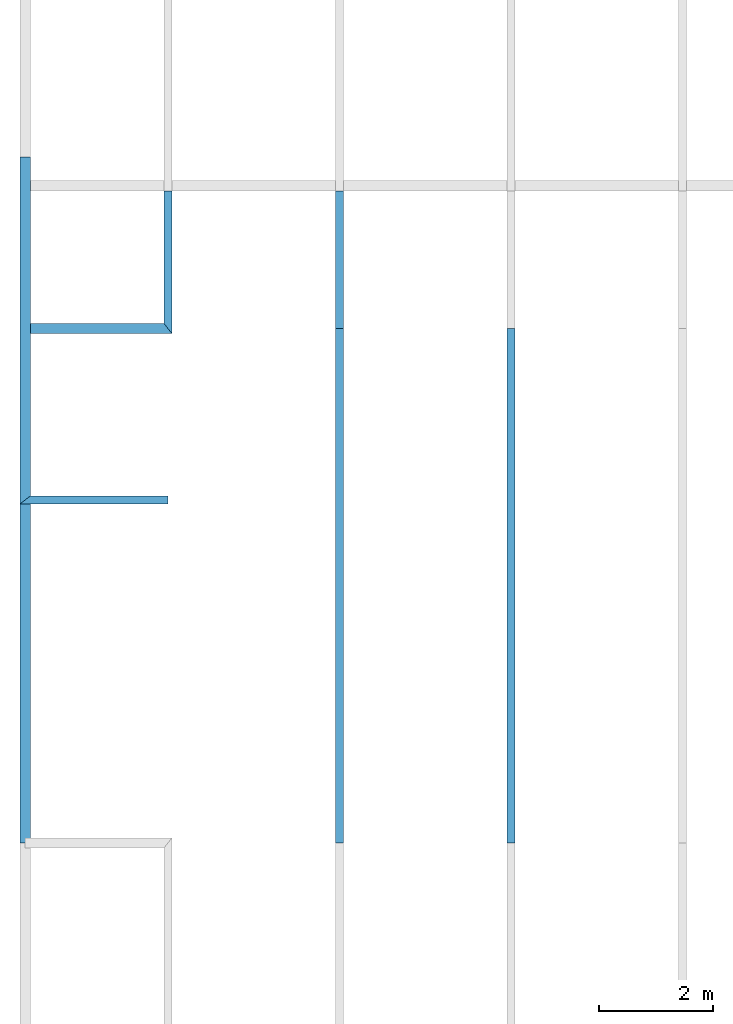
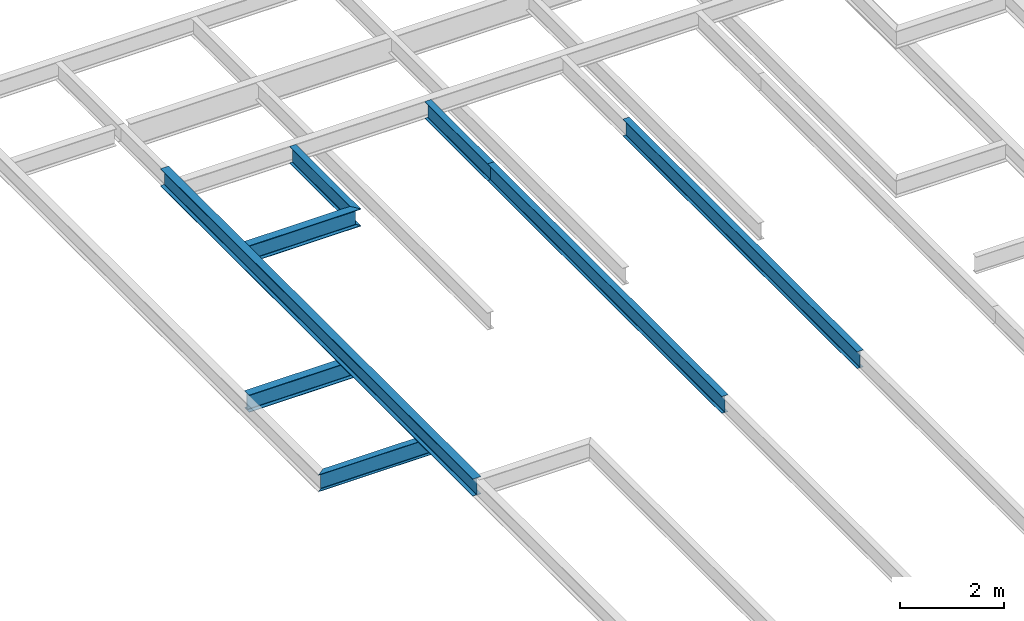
# One storey, part 4 of 7: 8 beams.
"""IFC2X3 building model written with IfcOpenShell, lengths in millimetres."""

from ifc_helpers import new_model, si_unit, origin, place, context, project, spatial, faceted_brep, material, element, save


model = new_model("IFC2X3")

# Units and contexts
context_of_model = context(None, 3, precision=1e-05, world=origin())
ifc_project = project(units=[si_unit("LENGTHUNIT", "METRE", prefix="MILLI")], contexts=[context_of_model])

# Building, storey
building = spatial("IfcBuilding", under=ifc_project, Name="Building", CompositionType="ELEMENT")
storey = spatial("IfcBuildingStorey", under=building, Name="ROF-FRM", CompositionType="ELEMENT")

# Beams
ifc_material_1 = material(Name="A992")
beam_1_placement = place(None, origin())
element("IfcBeam", 1, at=beam_1_placement, inside=storey, material=ifc_material_1, Name="B1127", context=context_of_model, shape_type="Brep", body=[
    faceted_brep([(-70.0, 27089.0, 27766.0), (70.0, 26911.0, 27766.0), (-2410.0, 26911.0, 27766.0), (-2410.0, 27089.0, 27766.0), (70.0, 26911.0, 27778.8), (-2410.0, 26911.0, 27778.8), (11.0506, 26986.0, 27778.8), (-2410.0, 26986.0, 27778.8), (9.91726, 26987.4, 27778.9), (-2410.0, 26987.4, 27778.9), (8.79907, 26988.8, 27779.2), (-2410.0, 26988.8, 27779.2), (7.72656, 26990.2, 27779.7), (-2410.0, 26990.2, 27779.7), (6.73542, 26991.4, 27780.4), (-2410.0, 26991.5, 27780.4), (5.80777, 26992.6, 27781.3), (-2410.0, 26992.6, 27781.3), (5.00397, 26993.6, 27782.3), (-2410.0, 26993.7, 27782.3), (4.31854, 26994.5, 27783.5), (-2410.0, 26994.5, 27783.5), (3.75509, 26995.2, 27784.7), (-2410.0, 26995.2, 27784.8), (3.36802, 26995.7, 27786.1), (-2410.0, 26995.7, 27786.1), (3.12694, 26996.0, 27787.5), (-2410.0, 26996.0, 27787.5), (3.02809, 26996.2, 27789.0), (-2410.0, 26996.2, 27789.0), (3.02809, 26996.2, 28150.0), (-2410.0, 26996.2, 28150.0), (3.12694, 26996.0, 28151.5), (-2410.0, 26996.0, 28151.5), (3.36802, 26995.7, 28152.9), (-2410.0, 26995.7, 28152.9), (3.75509, 26995.2, 28154.3), (-2410.0, 26995.2, 28154.2), (4.31854, 26994.5, 28155.5), (-2410.0, 26994.5, 28155.5), (5.00397, 26993.6, 28156.7), (-2410.0, 26993.7, 28156.7), (5.80777, 26992.6, 28157.7), (-2410.0, 26992.6, 28157.7), (6.73542, 26991.4, 28158.6), (-2410.0, 26991.5, 28158.6), (7.72656, 26990.2, 28159.3), (-2410.0, 26990.2, 28159.3), (8.79907, 26988.8, 28159.8), (-2410.0, 26988.8, 28159.8), (9.91726, 26987.4, 28160.1), (-2410.0, 26987.4, 28160.1), (11.0506, 26986.0, 28160.2), (-2410.0, 26986.0, 28160.2), (70.0, 26911.0, 28160.2), (-2410.0, 26911.0, 28160.2), (70.0, 26911.0, 28173.0), (-2410.0, 26911.0, 28173.0), (-70.0, 27089.0, 28173.0), (-2410.0, 27089.0, 28173.0), (-70.0, 27089.0, 28160.2), (-2410.0, 27089.0, 28160.2), (-11.0506, 27014.0, 28160.2), (-2410.0, 27014.0, 28160.2), (-9.91726, 27012.6, 28160.1), (-2410.0, 27012.6, 28160.1), (-8.79907, 27011.2, 28159.8), (-2410.0, 27011.2, 28159.8), (-7.72656, 27009.8, 28159.3), (-2410.0, 27009.8, 28159.3), (-6.73542, 27008.6, 28158.6), (-2410.0, 27008.5, 28158.6), (-5.80777, 27007.4, 28157.7), (-2410.0, 27007.4, 28157.7), (-5.00397, 27006.4, 28156.7), (-2410.0, 27006.3, 28156.7), (-4.31854, 27005.5, 28155.5), (-2410.0, 27005.5, 28155.5), (-3.75509, 27004.8, 28154.3), (-2410.0, 27004.8, 28154.2), (-3.36802, 27004.3, 28152.9), (-2410.0, 27004.3, 28152.9), (-3.12694, 27004.0, 28151.5), (-2410.0, 27004.0, 28151.5), (-3.02809, 27003.8, 28150.0), (-2410.0, 27003.8, 28150.0), (-3.02809, 27003.8, 27789.0), (-2410.0, 27003.8, 27789.0), (-3.12694, 27004.0, 27787.5), (-2410.0, 27004.0, 27787.5), (-3.36802, 27004.3, 27786.1), (-2410.0, 27004.3, 27786.1), (-3.75509, 27004.8, 27784.7), (-2410.0, 27004.8, 27784.8), (-4.31854, 27005.5, 27783.5), (-2410.0, 27005.5, 27783.5), (-5.00397, 27006.4, 27782.3), (-2410.0, 27006.3, 27782.3), (-5.80777, 27007.4, 27781.3), (-2410.0, 27007.4, 27781.3), (-6.73542, 27008.6, 27780.4), (-2410.0, 27008.5, 27780.4), (-7.72656, 27009.8, 27779.7), (-2410.0, 27009.8, 27779.7), (-8.79907, 27011.2, 27779.2), (-2410.0, 27011.2, 27779.2), (-9.91726, 27012.6, 27778.9), (-2410.0, 27012.6, 27778.9), (-11.0506, 27014.0, 27778.8), (-2410.0, 27014.0, 27778.8), (-70.0, 27089.0, 27778.8), (-2410.0, 27089.0, 27778.8)], [[[0, 1, 2, 3]], [[1, 4, 5, 2]], [[4, 6, 7, 5]], [[6, 8, 9, 7]], [[8, 10, 11, 9]], [[10, 12, 13, 11]], [[12, 14, 15, 13]], [[14, 16, 17, 15]], [[16, 18, 19, 17]], [[18, 20, 21, 19]], [[20, 22, 23, 21]], [[22, 24, 25, 23]], [[24, 26, 27, 25]], [[26, 28, 29, 27]], [[28, 30, 31, 29]], [[30, 32, 33, 31]], [[32, 34, 35, 33]], [[34, 36, 37, 35]], [[36, 38, 39, 37]], [[38, 40, 41, 39]], [[40, 42, 43, 41]], [[42, 44, 45, 43]], [[44, 46, 47, 45]], [[46, 48, 49, 47]], [[48, 50, 51, 49]], [[50, 52, 53, 51]], [[52, 54, 55, 53]], [[54, 56, 57, 55]], [[56, 58, 59, 57]], [[58, 60, 61, 59]], [[60, 62, 63, 61]], [[62, 64, 65, 63]], [[64, 66, 67, 65]], [[66, 68, 69, 67]], [[68, 70, 71, 69]], [[70, 72, 73, 71]], [[72, 74, 75, 73]], [[74, 76, 77, 75]], [[76, 78, 79, 77]], [[78, 80, 81, 79]], [[80, 82, 83, 81]], [[82, 84, 85, 83]], [[84, 86, 87, 85]], [[86, 88, 89, 87]], [[88, 90, 91, 89]], [[90, 92, 93, 91]], [[92, 94, 95, 93]], [[94, 96, 97, 95]], [[96, 98, 99, 97]], [[98, 100, 101, 99]], [[100, 102, 103, 101]], [[102, 104, 105, 103]], [[104, 106, 107, 105]], [[106, 108, 109, 107]], [[108, 110, 111, 109]], [[110, 0, 3, 111]], [[0, 110, 108, 106, 104, 102, 100, 98, 96, 94, 92, 90, 88, 86, 84, 82, 80, 78, 76, 74, 72, 70, 68, 66, 64, 62, 60, 58, 56, 54, 52, 50, 48, 46, 44, 42, 40, 38, 36, 34, 32, 30, 28, 26, 24, 22, 20, 18, 16, 14, 12, 10, 8, 6, 4, 1]], [[3, 2, 5, 7, 9, 11, 13, 15, 17, 19, 21, 23, 25, 27, 29, 31, 33, 35, 37, 39, 41, 43, 45, 47, 49, 51, 53, 55, 57, 59, 61, 63, 65, 67, 69, 71, 73, 75, 77, 79, 81, 83, 85, 87, 89, 91, 93, 95, 97, 99, 101, 103, 105, 107, 109, 111]]]),
])
ifc_material_2 = material(Name="A992")
beam_2_placement = place(None, origin())
element("IfcBeam", 2, at=beam_2_placement, inside=storey, material=ifc_material_2, Name="B1132", context=context_of_model, shape_type="Brep", body=[
    faceted_brep([(-70.0, 27089.0, 31266.0), (70.0, 26911.0, 31266.0), (-2410.0, 26911.0, 31266.0), (-2410.0, 27089.0, 31266.0), (70.0, 26911.0, 31278.8), (-2410.0, 26911.0, 31278.8), (11.0506, 26986.0, 31278.8), (-2410.0, 26986.0, 31278.8), (9.91726, 26987.4, 31278.9), (-2410.0, 26987.4, 31278.9), (8.79907, 26988.8, 31279.2), (-2410.0, 26988.8, 31279.2), (7.72656, 26990.2, 31279.7), (-2410.0, 26990.2, 31279.7), (6.73542, 26991.4, 31280.4), (-2410.0, 26991.5, 31280.4), (5.80777, 26992.6, 31281.3), (-2410.0, 26992.6, 31281.3), (5.00397, 26993.6, 31282.3), (-2410.0, 26993.7, 31282.3), (4.31854, 26994.5, 31283.5), (-2410.0, 26994.5, 31283.5), (3.75509, 26995.2, 31284.7), (-2410.0, 26995.2, 31284.8), (3.36802, 26995.7, 31286.1), (-2410.0, 26995.7, 31286.1), (3.12694, 26996.0, 31287.5), (-2410.0, 26996.0, 31287.5), (3.02809, 26996.2, 31289.0), (-2410.0, 26996.2, 31289.0), (3.02809, 26996.2, 31650.0), (-2410.0, 26996.2, 31650.0), (3.12694, 26996.0, 31651.5), (-2410.0, 26996.0, 31651.5), (3.36802, 26995.7, 31652.9), (-2410.0, 26995.7, 31652.9), (3.75509, 26995.2, 31654.3), (-2410.0, 26995.2, 31654.2), (4.31854, 26994.5, 31655.5), (-2410.0, 26994.5, 31655.5), (5.00397, 26993.6, 31656.7), (-2410.0, 26993.7, 31656.7), (5.80777, 26992.6, 31657.7), (-2410.0, 26992.6, 31657.7), (6.73542, 26991.4, 31658.6), (-2410.0, 26991.5, 31658.6), (7.72656, 26990.2, 31659.3), (-2410.0, 26990.2, 31659.3), (8.79907, 26988.8, 31659.8), (-2410.0, 26988.8, 31659.8), (9.91726, 26987.4, 31660.1), (-2410.0, 26987.4, 31660.1), (11.0506, 26986.0, 31660.2), (-2410.0, 26986.0, 31660.2), (70.0, 26911.0, 31660.2), (-2410.0, 26911.0, 31660.2), (70.0, 26911.0, 31673.0), (-2410.0, 26911.0, 31673.0), (-70.0, 27089.0, 31673.0), (-2410.0, 27089.0, 31673.0), (-70.0, 27089.0, 31660.2), (-2410.0, 27089.0, 31660.2), (-11.0506, 27014.0, 31660.2), (-2410.0, 27014.0, 31660.2), (-9.91726, 27012.6, 31660.1), (-2410.0, 27012.6, 31660.1), (-8.79907, 27011.2, 31659.8), (-2410.0, 27011.2, 31659.8), (-7.72656, 27009.8, 31659.3), (-2410.0, 27009.8, 31659.3), (-6.73542, 27008.6, 31658.6), (-2410.0, 27008.5, 31658.6), (-5.80777, 27007.4, 31657.7), (-2410.0, 27007.4, 31657.7), (-5.00397, 27006.4, 31656.7), (-2410.0, 27006.3, 31656.7), (-4.31854, 27005.5, 31655.5), (-2410.0, 27005.5, 31655.5), (-3.75509, 27004.8, 31654.3), (-2410.0, 27004.8, 31654.2), (-3.36802, 27004.3, 31652.9), (-2410.0, 27004.3, 31652.9), (-3.12694, 27004.0, 31651.5), (-2410.0, 27004.0, 31651.5), (-3.02809, 27003.8, 31650.0), (-2410.0, 27003.8, 31650.0), (-3.02809, 27003.8, 31289.0), (-2410.0, 27003.8, 31289.0), (-3.12694, 27004.0, 31287.5), (-2410.0, 27004.0, 31287.5), (-3.36802, 27004.3, 31286.1), (-2410.0, 27004.3, 31286.1), (-3.75509, 27004.8, 31284.7), (-2410.0, 27004.8, 31284.8), (-4.31854, 27005.5, 31283.5), (-2410.0, 27005.5, 31283.5), (-5.00397, 27006.4, 31282.3), (-2410.0, 27006.3, 31282.3), (-5.80777, 27007.4, 31281.3), (-2410.0, 27007.4, 31281.3), (-6.73542, 27008.6, 31280.4), (-2410.0, 27008.5, 31280.4), (-7.72656, 27009.8, 31279.7), (-2410.0, 27009.8, 31279.7), (-8.79907, 27011.2, 31279.2), (-2410.0, 27011.2, 31279.2), (-9.91726, 27012.6, 31278.9), (-2410.0, 27012.6, 31278.9), (-11.0506, 27014.0, 31278.8), (-2410.0, 27014.0, 31278.8), (-70.0, 27089.0, 31278.8), (-2410.0, 27089.0, 31278.8)], [[[0, 1, 2, 3]], [[1, 4, 5, 2]], [[4, 6, 7, 5]], [[6, 8, 9, 7]], [[8, 10, 11, 9]], [[10, 12, 13, 11]], [[12, 14, 15, 13]], [[14, 16, 17, 15]], [[16, 18, 19, 17]], [[18, 20, 21, 19]], [[20, 22, 23, 21]], [[22, 24, 25, 23]], [[24, 26, 27, 25]], [[26, 28, 29, 27]], [[28, 30, 31, 29]], [[30, 32, 33, 31]], [[32, 34, 35, 33]], [[34, 36, 37, 35]], [[36, 38, 39, 37]], [[38, 40, 41, 39]], [[40, 42, 43, 41]], [[42, 44, 45, 43]], [[44, 46, 47, 45]], [[46, 48, 49, 47]], [[48, 50, 51, 49]], [[50, 52, 53, 51]], [[52, 54, 55, 53]], [[54, 56, 57, 55]], [[56, 58, 59, 57]], [[58, 60, 61, 59]], [[60, 62, 63, 61]], [[62, 64, 65, 63]], [[64, 66, 67, 65]], [[66, 68, 69, 67]], [[68, 70, 71, 69]], [[70, 72, 73, 71]], [[72, 74, 75, 73]], [[74, 76, 77, 75]], [[76, 78, 79, 77]], [[78, 80, 81, 79]], [[80, 82, 83, 81]], [[82, 84, 85, 83]], [[84, 86, 87, 85]], [[86, 88, 89, 87]], [[88, 90, 91, 89]], [[90, 92, 93, 91]], [[92, 94, 95, 93]], [[94, 96, 97, 95]], [[96, 98, 99, 97]], [[98, 100, 101, 99]], [[100, 102, 103, 101]], [[102, 104, 105, 103]], [[104, 106, 107, 105]], [[106, 108, 109, 107]], [[108, 110, 111, 109]], [[110, 0, 3, 111]], [[0, 110, 108, 106, 104, 102, 100, 98, 96, 94, 92, 90, 88, 86, 84, 82, 80, 78, 76, 74, 72, 70, 68, 66, 64, 62, 60, 58, 56, 54, 52, 50, 48, 46, 44, 42, 40, 38, 36, 34, 32, 30, 28, 26, 24, 22, 20, 18, 16, 14, 12, 10, 8, 6, 4, 1]], [[3, 2, 5, 7, 9, 11, 13, 15, 17, 19, 21, 23, 25, 27, 29, 31, 33, 35, 37, 39, 41, 43, 45, 47, 49, 51, 53, 55, 57, 59, 61, 63, 65, 67, 69, 71, 73, 75, 77, 79, 81, 83, 85, 87, 89, 91, 93, 95, 97, 99, 101, 103, 105, 107, 109, 111]]]),
])
ifc_material_3 = material(Name="A992")
beam_3_placement = place(None, origin())
element("IfcBeam", 3, at=beam_3_placement, inside=storey, material=ifc_material_3, Name="B1142", context=context_of_model, shape_type="Brep", body=[
    faceted_brep([(-2410.0, 18000.0, 31260.0), (-2590.0, 18000.0, 31260.0), (-2590.0, 30000.0, 31260.0), (-2410.0, 30000.0, 31260.0), (-2590.0, 18000.0, 31276.0), (-2590.0, 30000.0, 31276.0), (-2515.05, 18000.0, 31276.0), (-2515.05, 30000.0, 31276.0), (-2512.41, 18000.0, 31276.3), (-2512.41, 30000.0, 31276.3), (-2509.95, 18000.0, 31277.4), (-2509.95, 30000.0, 31277.4), (-2507.84, 18000.0, 31279.0), (-2507.84, 30000.0, 31279.0), (-2506.22, 18000.0, 31281.1), (-2506.22, 30000.0, 31281.1), (-2505.2, 18000.0, 31283.6), (-2505.2, 30000.0, 31283.6), (-2504.85, 18000.0, 31286.2), (-2504.85, 30000.0, 31286.2), (-2504.85, 18000.0, 31646.8), (-2504.85, 30000.0, 31646.8), (-2505.2, 18000.0, 31649.4), (-2505.2, 30000.0, 31649.4), (-2506.22, 18000.0, 31651.9), (-2506.22, 30000.0, 31651.9), (-2507.84, 18000.0, 31654.0), (-2507.84, 30000.0, 31654.0), (-2509.95, 18000.0, 31655.6), (-2509.95, 30000.0, 31655.6), (-2512.41, 18000.0, 31656.7), (-2512.41, 30000.0, 31656.7), (-2515.05, 18000.0, 31657.0), (-2515.05, 30000.0, 31657.0), (-2590.0, 18000.0, 31657.0), (-2590.0, 30000.0, 31657.0), (-2590.0, 18000.0, 31673.0), (-2590.0, 30000.0, 31673.0), (-2410.0, 18000.0, 31673.0), (-2410.0, 30000.0, 31673.0), (-2410.0, 18000.0, 31657.0), (-2410.0, 30000.0, 31657.0), (-2484.95, 18000.0, 31657.0), (-2484.95, 30000.0, 31657.0), (-2487.59, 18000.0, 31656.7), (-2487.59, 30000.0, 31656.7), (-2490.05, 18000.0, 31655.6), (-2490.05, 30000.0, 31655.6), (-2492.16, 18000.0, 31654.0), (-2492.16, 30000.0, 31654.0), (-2493.78, 18000.0, 31651.9), (-2493.78, 30000.0, 31651.9), (-2494.8, 18000.0, 31649.4), (-2494.8, 30000.0, 31649.4), (-2495.15, 18000.0, 31646.8), (-2495.15, 30000.0, 31646.8), (-2495.15, 18000.0, 31286.2), (-2495.15, 30000.0, 31286.2), (-2494.8, 18000.0, 31283.6), (-2494.8, 30000.0, 31283.6), (-2493.78, 18000.0, 31281.1), (-2493.78, 30000.0, 31281.1), (-2492.16, 18000.0, 31279.0), (-2492.16, 30000.0, 31279.0), (-2490.05, 18000.0, 31277.4), (-2490.05, 30000.0, 31277.4), (-2487.59, 18000.0, 31276.3), (-2487.59, 30000.0, 31276.3), (-2484.95, 18000.0, 31276.0), (-2484.95, 30000.0, 31276.0), (-2410.0, 18000.0, 31276.0), (-2410.0, 30000.0, 31276.0)], [[[0, 1, 2, 3]], [[1, 4, 5, 2]], [[4, 6, 7, 5]], [[6, 8, 9, 7]], [[8, 10, 11, 9]], [[10, 12, 13, 11]], [[12, 14, 15, 13]], [[14, 16, 17, 15]], [[16, 18, 19, 17]], [[18, 20, 21, 19]], [[20, 22, 23, 21]], [[22, 24, 25, 23]], [[24, 26, 27, 25]], [[26, 28, 29, 27]], [[28, 30, 31, 29]], [[30, 32, 33, 31]], [[32, 34, 35, 33]], [[34, 36, 37, 35]], [[36, 38, 39, 37]], [[38, 40, 41, 39]], [[40, 42, 43, 41]], [[42, 44, 45, 43]], [[44, 46, 47, 45]], [[46, 48, 49, 47]], [[48, 50, 51, 49]], [[50, 52, 53, 51]], [[52, 54, 55, 53]], [[54, 56, 57, 55]], [[56, 58, 59, 57]], [[58, 60, 61, 59]], [[60, 62, 63, 61]], [[62, 64, 65, 63]], [[64, 66, 67, 65]], [[66, 68, 69, 67]], [[68, 70, 71, 69]], [[70, 0, 3, 71]], [[0, 70, 68, 66, 64, 62, 60, 58, 56, 54, 52, 50, 48, 46, 44, 42, 40, 38, 36, 34, 32, 30, 28, 26, 24, 22, 20, 18, 16, 14, 12, 10, 8, 6, 4, 1]], [[3, 2, 5, 7, 9, 11, 13, 15, 17, 19, 21, 23, 25, 27, 29, 31, 33, 35, 37, 39, 41, 43, 45, 47, 49, 51, 53, 55, 57, 59, 61, 63, 65, 67, 69, 71]]]),
])
ifc_material_4 = material(Name="A992")
beam_4_placement = place(None, origin())
element("IfcBeam", 4, at=beam_4_placement, inside=storey, material=ifc_material_4, Name="B1146", context=context_of_model, shape_type="Brep", body=[
    faceted_brep([(-2590.0, 23930.0, 27774.0), (-2410.0, 24070.0, 27774.0), (-2.98428e-13, 24070.0, 27774.0), (2.98428e-13, 23930.0, 27774.0), (-2410.0, 24070.0, 27782.8), (-2.98428e-13, 24070.0, 27782.8), (-2482.77, 24013.4, 27782.8), (-5.71276e-14, 24013.4, 27782.8), (-2484.8, 24011.8, 27782.9), (-5.0325e-14, 24011.8, 27782.9), (-2486.8, 24010.3, 27783.3), (-4.369e-14, 24010.2, 27783.3), (-2488.68, 24008.8, 27783.9), (-3.73858e-14, 24008.8, 27783.9), (-2490.42, 24007.5, 27784.7), (-3.15677e-14, 24007.4, 27784.7), (-2492.04, 24006.2, 27785.8), (-2.63789e-14, 24006.2, 27785.8), (-2493.32, 24005.2, 27786.9), (-2.19474e-14, 24005.1, 27787.0), (-2494.44, 24004.3, 27788.3), (-1.8382e-14, 24004.3, 27788.4), (-2495.2, 24003.7, 27789.8), (-1.57707e-14, 24003.7, 27789.8), (-2495.66, 24003.4, 27791.4), (-1.41778e-14, 24003.3, 27791.4), (-2495.89, 24003.2, 27793.0), (-1.36424e-14, 24003.2, 27793.0), (-2495.89, 24003.2, 28154.0), (-1.36424e-14, 24003.2, 28154.0), (-2495.66, 24003.4, 28155.6), (-1.41778e-14, 24003.3, 28155.6), (-2495.2, 24003.7, 28157.2), (-1.57707e-14, 24003.7, 28157.2), (-2494.44, 24004.3, 28158.7), (-1.8382e-14, 24004.3, 28158.6), (-2493.32, 24005.2, 28160.1), (-2.19474e-14, 24005.1, 28160.0), (-2492.04, 24006.2, 28161.2), (-2.63789e-14, 24006.2, 28161.2), (-2490.42, 24007.5, 28162.3), (-3.15677e-14, 24007.4, 28162.3), (-2488.68, 24008.8, 28163.1), (-3.73858e-14, 24008.8, 28163.1), (-2486.8, 24010.3, 28163.7), (-4.369e-14, 24010.2, 28163.7), (-2484.8, 24011.8, 28164.1), (-5.0325e-14, 24011.8, 28164.1), (-2482.77, 24013.4, 28164.2), (-5.71276e-14, 24013.4, 28164.2), (-2410.0, 24070.0, 28164.2), (-2.98428e-13, 24070.0, 28164.2), (-2410.0, 24070.0, 28173.0), (-2.98428e-13, 24070.0, 28173.0), (-2590.0, 23930.0, 28173.0), (2.98428e-13, 23930.0, 28173.0), (-2590.0, 23930.0, 28164.2), (2.98428e-13, 23930.0, 28164.2), (-2517.23, 23986.6, 28164.2), (5.71276e-14, 23986.6, 28164.2), (-2515.2, 23988.2, 28164.1), (5.0325e-14, 23988.2, 28164.1), (-2513.2, 23989.7, 28163.7), (4.369e-14, 23989.8, 28163.7), (-2511.32, 23991.2, 28163.1), (3.73858e-14, 23991.2, 28163.1), (-2509.58, 23992.5, 28162.3), (3.15677e-14, 23992.6, 28162.3), (-2507.96, 23993.8, 28161.2), (2.63789e-14, 23993.8, 28161.2), (-2506.68, 23994.8, 28160.1), (2.19474e-14, 23994.9, 28160.0), (-2505.56, 23995.7, 28158.7), (1.8382e-14, 23995.7, 28158.6), (-2504.8, 23996.3, 28157.2), (1.57707e-14, 23996.3, 28157.2), (-2504.34, 23996.6, 28155.6), (1.41778e-14, 23996.7, 28155.6), (-2504.11, 23996.8, 28154.0), (1.36424e-14, 23996.8, 28154.0), (-2504.11, 23996.8, 27793.0), (1.36424e-14, 23996.8, 27793.0), (-2504.34, 23996.6, 27791.4), (1.41778e-14, 23996.7, 27791.4), (-2504.8, 23996.3, 27789.8), (1.57707e-14, 23996.3, 27789.8), (-2505.56, 23995.7, 27788.3), (1.8382e-14, 23995.7, 27788.4), (-2506.68, 23994.8, 27786.9), (2.19474e-14, 23994.9, 27787.0), (-2507.96, 23993.8, 27785.8), (2.63789e-14, 23993.8, 27785.8), (-2509.58, 23992.5, 27784.7), (3.15677e-14, 23992.6, 27784.7), (-2511.32, 23991.2, 27783.9), (3.73858e-14, 23991.2, 27783.9), (-2513.2, 23989.7, 27783.3), (4.369e-14, 23989.8, 27783.3), (-2515.2, 23988.2, 27782.9), (5.0325e-14, 23988.2, 27782.9), (-2517.23, 23986.6, 27782.8), (5.71276e-14, 23986.6, 27782.8), (-2590.0, 23930.0, 27782.8), (2.98428e-13, 23930.0, 27782.8)], [[[0, 1, 2, 3]], [[1, 4, 5, 2]], [[4, 6, 7, 5]], [[6, 8, 9, 7]], [[8, 10, 11, 9]], [[10, 12, 13, 11]], [[12, 14, 15, 13]], [[14, 16, 17, 15]], [[16, 18, 19, 17]], [[18, 20, 21, 19]], [[20, 22, 23, 21]], [[22, 24, 25, 23]], [[24, 26, 27, 25]], [[26, 28, 29, 27]], [[28, 30, 31, 29]], [[30, 32, 33, 31]], [[32, 34, 35, 33]], [[34, 36, 37, 35]], [[36, 38, 39, 37]], [[38, 40, 41, 39]], [[40, 42, 43, 41]], [[42, 44, 45, 43]], [[44, 46, 47, 45]], [[46, 48, 49, 47]], [[48, 50, 51, 49]], [[50, 52, 53, 51]], [[52, 54, 55, 53]], [[54, 56, 57, 55]], [[56, 58, 59, 57]], [[58, 60, 61, 59]], [[60, 62, 63, 61]], [[62, 64, 65, 63]], [[64, 66, 67, 65]], [[66, 68, 69, 67]], [[68, 70, 71, 69]], [[70, 72, 73, 71]], [[72, 74, 75, 73]], [[74, 76, 77, 75]], [[76, 78, 79, 77]], [[78, 80, 81, 79]], [[80, 82, 83, 81]], [[82, 84, 85, 83]], [[84, 86, 87, 85]], [[86, 88, 89, 87]], [[88, 90, 91, 89]], [[90, 92, 93, 91]], [[92, 94, 95, 93]], [[94, 96, 97, 95]], [[96, 98, 99, 97]], [[98, 100, 101, 99]], [[100, 102, 103, 101]], [[102, 0, 3, 103]], [[0, 102, 100, 98, 96, 94, 92, 90, 88, 86, 84, 82, 80, 78, 76, 74, 72, 70, 68, 66, 64, 62, 60, 58, 56, 54, 52, 50, 48, 46, 44, 42, 40, 38, 36, 34, 32, 30, 28, 26, 24, 22, 20, 18, 16, 14, 12, 10, 8, 6, 4, 1]], [[3, 2, 5, 7, 9, 11, 13, 15, 17, 19, 21, 23, 25, 27, 29, 31, 33, 35, 37, 39, 41, 43, 45, 47, 49, 51, 53, 55, 57, 59, 61, 63, 65, 67, 69, 71, 73, 75, 77, 79, 81, 83, 85, 87, 89, 91, 93, 95, 97, 99, 101, 103]]]),
])
ifc_material_5 = material(Name="A992")
beam_5_placement = place(None, origin())
element("IfcBeam", 5, at=beam_5_placement, inside=storey, material=ifc_material_5, Name="B1157", context=context_of_model, shape_type="Brep", body=[
    faceted_brep([(5930.0, 27000.0, 31270.0), (6070.0, 27000.0, 31270.0), (6070.0, 18000.0, 31270.0), (5930.0, 18000.0, 31270.0), (6070.0, 27000.0, 31281.2), (6070.0, 18000.0, 31281.2), (6013.7, 27000.0, 31281.2), (6013.7, 18000.0, 31281.2), (6011.06, 27000.0, 31281.5), (6011.06, 18000.0, 31281.5), (6008.6, 27000.0, 31282.6), (6008.6, 18000.0, 31282.6), (6006.49, 27000.0, 31284.2), (6006.49, 18000.0, 31284.2), (6004.87, 27000.0, 31286.3), (6004.87, 18000.0, 31286.3), (6003.85, 27000.0, 31288.8), (6003.85, 18000.0, 31288.8), (6003.5, 27000.0, 31291.4), (6003.5, 18000.0, 31291.4), (6003.5, 27000.0, 31651.6), (6003.5, 18000.0, 31651.6), (6003.85, 27000.0, 31654.2), (6003.85, 18000.0, 31654.2), (6004.87, 27000.0, 31656.7), (6004.87, 18000.0, 31656.7), (6006.49, 27000.0, 31658.8), (6006.49, 18000.0, 31658.8), (6008.6, 27000.0, 31660.4), (6008.6, 18000.0, 31660.4), (6011.06, 27000.0, 31661.5), (6011.06, 18000.0, 31661.5), (6013.7, 27000.0, 31661.8), (6013.7, 18000.0, 31661.8), (6070.0, 27000.0, 31661.8), (6070.0, 18000.0, 31661.8), (6070.0, 27000.0, 31673.0), (6070.0, 18000.0, 31673.0), (5930.0, 27000.0, 31673.0), (5930.0, 18000.0, 31673.0), (5930.0, 27000.0, 31661.8), (5930.0, 18000.0, 31661.8), (5986.3, 27000.0, 31661.8), (5986.3, 18000.0, 31661.8), (5988.94, 27000.0, 31661.5), (5988.94, 18000.0, 31661.5), (5991.4, 27000.0, 31660.4), (5991.4, 18000.0, 31660.4), (5993.51, 27000.0, 31658.8), (5993.51, 18000.0, 31658.8), (5995.13, 27000.0, 31656.7), (5995.13, 18000.0, 31656.7), (5996.15, 27000.0, 31654.2), (5996.15, 18000.0, 31654.2), (5996.5, 27000.0, 31651.6), (5996.5, 18000.0, 31651.6), (5996.5, 27000.0, 31291.4), (5996.5, 18000.0, 31291.4), (5996.15, 27000.0, 31288.8), (5996.15, 18000.0, 31288.8), (5995.13, 27000.0, 31286.3), (5995.13, 18000.0, 31286.3), (5993.51, 27000.0, 31284.2), (5993.51, 18000.0, 31284.2), (5991.4, 27000.0, 31282.6), (5991.4, 18000.0, 31282.6), (5988.94, 27000.0, 31281.5), (5988.94, 18000.0, 31281.5), (5986.3, 27000.0, 31281.2), (5986.3, 18000.0, 31281.2), (5930.0, 27000.0, 31281.2), (5930.0, 18000.0, 31281.2)], [[[0, 1, 2, 3]], [[1, 4, 5, 2]], [[4, 6, 7, 5]], [[6, 8, 9, 7]], [[8, 10, 11, 9]], [[10, 12, 13, 11]], [[12, 14, 15, 13]], [[14, 16, 17, 15]], [[16, 18, 19, 17]], [[18, 20, 21, 19]], [[20, 22, 23, 21]], [[22, 24, 25, 23]], [[24, 26, 27, 25]], [[26, 28, 29, 27]], [[28, 30, 31, 29]], [[30, 32, 33, 31]], [[32, 34, 35, 33]], [[34, 36, 37, 35]], [[36, 38, 39, 37]], [[38, 40, 41, 39]], [[40, 42, 43, 41]], [[42, 44, 45, 43]], [[44, 46, 47, 45]], [[46, 48, 49, 47]], [[48, 50, 51, 49]], [[50, 52, 53, 51]], [[52, 54, 55, 53]], [[54, 56, 57, 55]], [[56, 58, 59, 57]], [[58, 60, 61, 59]], [[60, 62, 63, 61]], [[62, 64, 65, 63]], [[64, 66, 67, 65]], [[66, 68, 69, 67]], [[68, 70, 71, 69]], [[70, 0, 3, 71]], [[0, 70, 68, 66, 64, 62, 60, 58, 56, 54, 52, 50, 48, 46, 44, 42, 40, 38, 36, 34, 32, 30, 28, 26, 24, 22, 20, 18, 16, 14, 12, 10, 8, 6, 4, 1]], [[3, 2, 5, 7, 9, 11, 13, 15, 17, 19, 21, 23, 25, 27, 29, 31, 33, 35, 37, 39, 41, 43, 45, 47, 49, 51, 53, 55, 57, 59, 61, 63, 65, 67, 69, 71]]]),
])
ifc_material_6 = material(Name="A992")
beam_6_placement = place(None, origin())
element("IfcBeam", 6, at=beam_6_placement, inside=storey, material=ifc_material_6, Name="B1160", context=context_of_model, shape_type="Brep", body=[
    faceted_brep([(3070.0, 27000.0, 31270.0), (2930.0, 27000.0, 31270.0), (2930.0, 29410.0, 31270.0), (3070.0, 29410.0, 31270.0), (2930.0, 27000.0, 31281.2), (2930.0, 29410.0, 31281.2), (2986.3, 27000.0, 31281.2), (2986.3, 29410.0, 31281.2), (2988.94, 27000.0, 31281.5), (2988.94, 29410.0, 31281.5), (2991.4, 27000.0, 31282.6), (2991.4, 29410.0, 31282.6), (2993.51, 27000.0, 31284.2), (2993.51, 29410.0, 31284.2), (2995.13, 27000.0, 31286.3), (2995.13, 29410.0, 31286.3), (2996.15, 27000.0, 31288.8), (2996.15, 29410.0, 31288.8), (2996.5, 27000.0, 31291.4), (2996.5, 29410.0, 31291.4), (2996.5, 27000.0, 31651.6), (2996.5, 29410.0, 31651.6), (2996.15, 27000.0, 31654.2), (2996.15, 29410.0, 31654.2), (2995.13, 27000.0, 31656.7), (2995.13, 29410.0, 31656.7), (2993.51, 27000.0, 31658.8), (2993.51, 29410.0, 31658.8), (2991.4, 27000.0, 31660.4), (2991.4, 29410.0, 31660.4), (2988.94, 27000.0, 31661.5), (2988.94, 29410.0, 31661.5), (2986.3, 27000.0, 31661.8), (2986.3, 29410.0, 31661.8), (2930.0, 27000.0, 31661.8), (2930.0, 29410.0, 31661.8), (2930.0, 27000.0, 31673.0), (2930.0, 29410.0, 31673.0), (3070.0, 27000.0, 31673.0), (3070.0, 29410.0, 31673.0), (3070.0, 27000.0, 31661.8), (3070.0, 29410.0, 31661.8), (3013.7, 27000.0, 31661.8), (3013.7, 29410.0, 31661.8), (3011.06, 27000.0, 31661.5), (3011.06, 29410.0, 31661.5), (3008.6, 27000.0, 31660.4), (3008.6, 29410.0, 31660.4), (3006.49, 27000.0, 31658.8), (3006.49, 29410.0, 31658.8), (3004.87, 27000.0, 31656.7), (3004.87, 29410.0, 31656.7), (3003.85, 27000.0, 31654.2), (3003.85, 29410.0, 31654.2), (3003.5, 27000.0, 31651.6), (3003.5, 29410.0, 31651.6), (3003.5, 27000.0, 31291.4), (3003.5, 29410.0, 31291.4), (3003.85, 27000.0, 31288.8), (3003.85, 29410.0, 31288.8), (3004.87, 27000.0, 31286.3), (3004.87, 29410.0, 31286.3), (3006.49, 27000.0, 31284.2), (3006.49, 29410.0, 31284.2), (3008.6, 27000.0, 31282.6), (3008.6, 29410.0, 31282.6), (3011.06, 27000.0, 31281.5), (3011.06, 29410.0, 31281.5), (3013.7, 27000.0, 31281.2), (3013.7, 29410.0, 31281.2), (3070.0, 27000.0, 31281.2), (3070.0, 29410.0, 31281.2)], [[[0, 1, 2, 3]], [[1, 4, 5, 2]], [[4, 6, 7, 5]], [[6, 8, 9, 7]], [[8, 10, 11, 9]], [[10, 12, 13, 11]], [[12, 14, 15, 13]], [[14, 16, 17, 15]], [[16, 18, 19, 17]], [[18, 20, 21, 19]], [[20, 22, 23, 21]], [[22, 24, 25, 23]], [[24, 26, 27, 25]], [[26, 28, 29, 27]], [[28, 30, 31, 29]], [[30, 32, 33, 31]], [[32, 34, 35, 33]], [[34, 36, 37, 35]], [[36, 38, 39, 37]], [[38, 40, 41, 39]], [[40, 42, 43, 41]], [[42, 44, 45, 43]], [[44, 46, 47, 45]], [[46, 48, 49, 47]], [[48, 50, 51, 49]], [[50, 52, 53, 51]], [[52, 54, 55, 53]], [[54, 56, 57, 55]], [[56, 58, 59, 57]], [[58, 60, 61, 59]], [[60, 62, 63, 61]], [[62, 64, 65, 63]], [[64, 66, 67, 65]], [[66, 68, 69, 67]], [[68, 70, 71, 69]], [[70, 0, 3, 71]], [[0, 70, 68, 66, 64, 62, 60, 58, 56, 54, 52, 50, 48, 46, 44, 42, 40, 38, 36, 34, 32, 30, 28, 26, 24, 22, 20, 18, 16, 14, 12, 10, 8, 6, 4, 1]], [[3, 2, 5, 7, 9, 11, 13, 15, 17, 19, 21, 23, 25, 27, 29, 31, 33, 35, 37, 39, 41, 43, 45, 47, 49, 51, 53, 55, 57, 59, 61, 63, 65, 67, 69, 71]]]),
])
ifc_material_7 = material(Name="A992")
beam_7_placement = place(None, origin())
element("IfcBeam", 7, at=beam_7_placement, inside=storey, material=ifc_material_7, Name="B1180", context=context_of_model, shape_type="Brep", body=[
    faceted_brep([(70.0, 26911.0, 31274.0), (-70.0, 27089.0, 31274.0), (-70.0, 29410.0, 31274.0), (70.0, 29410.0, 31274.0), (-70.0, 27089.0, 31282.8), (-70.0, 29410.0, 31282.8), (-13.4, 27017.0, 31282.8), (-13.4, 29410.0, 31282.8), (-11.9666, 27015.2, 31282.9), (-11.9485, 29410.0, 31282.9), (-10.5454, 27013.4, 31283.2), (-10.5264, 29410.0, 31283.2), (-9.18121, 27011.7, 31283.7), (-9.1628, 29410.0, 31283.7), (-7.93548, 27010.1, 31284.4), (-7.88581, 29410.0, 31284.4), (-6.74703, 27008.6, 31285.2), (-6.72055, 29410.0, 31285.3), (-5.72901, 27007.3, 31286.3), (-5.69154, 29410.0, 31286.3), (-4.85916, 27006.2, 31287.4), (-4.81973, 29410.0, 31287.5), (-4.12728, 27005.2, 31288.7), (-4.12181, 29410.0, 31288.8), (-3.654, 27004.6, 31290.1), (-3.61356, 29410.0, 31290.1), (-3.35083, 27004.3, 31291.5), (-3.30435, 29410.0, 31291.5), (-3.2, 27004.1, 31293.0), (-3.2, 29410.0, 31293.0), (-3.2, 27004.1, 31654.0), (-3.2, 29410.0, 31654.0), (-3.35083, 27004.3, 31655.5), (-3.30435, 29410.0, 31655.5), (-3.654, 27004.6, 31656.9), (-3.61356, 29410.0, 31656.9), (-4.12728, 27005.2, 31658.3), (-4.12181, 29410.0, 31658.2), (-4.85916, 27006.2, 31659.6), (-4.81973, 29410.0, 31659.5), (-5.72901, 27007.3, 31660.7), (-5.69154, 29410.0, 31660.7), (-6.74703, 27008.6, 31661.8), (-6.72055, 29410.0, 31661.7), (-7.93548, 27010.1, 31662.6), (-7.88581, 29410.0, 31662.6), (-9.18121, 27011.7, 31663.3), (-9.1628, 29410.0, 31663.3), (-10.5454, 27013.4, 31663.8), (-10.5264, 29410.0, 31663.8), (-11.9666, 27015.2, 31664.1), (-11.9485, 29410.0, 31664.1), (-13.4, 27017.0, 31664.2), (-13.4, 29410.0, 31664.2), (-70.0, 27089.0, 31664.2), (-70.0, 29410.0, 31664.2), (-70.0, 27089.0, 31673.0), (-70.0, 29410.0, 31673.0), (70.0, 26911.0, 31673.0), (70.0, 29410.0, 31673.0), (70.0, 26911.0, 31664.2), (70.0, 29410.0, 31664.2), (13.4, 26983.0, 31664.2), (13.4, 29410.0, 31664.2), (11.9666, 26984.8, 31664.1), (11.9485, 29410.0, 31664.1), (10.5454, 26986.6, 31663.8), (10.5264, 29410.0, 31663.8), (9.18121, 26988.3, 31663.3), (9.1628, 29410.0, 31663.3), (7.93548, 26989.9, 31662.6), (7.88581, 29410.0, 31662.6), (6.74703, 26991.4, 31661.8), (6.72055, 29410.0, 31661.7), (5.72901, 26992.7, 31660.7), (5.69154, 29410.0, 31660.7), (4.85916, 26993.8, 31659.6), (4.81973, 29410.0, 31659.5), (4.12728, 26994.8, 31658.3), (4.12181, 29410.0, 31658.2), (3.654, 26995.4, 31656.9), (3.61356, 29410.0, 31656.9), (3.35083, 26995.7, 31655.5), (3.30435, 29410.0, 31655.5), (3.2, 26995.9, 31654.0), (3.2, 29410.0, 31654.0), (3.2, 26995.9, 31293.0), (3.2, 29410.0, 31293.0), (3.35083, 26995.7, 31291.5), (3.30435, 29410.0, 31291.5), (3.654, 26995.4, 31290.1), (3.61356, 29410.0, 31290.1), (4.12728, 26994.8, 31288.7), (4.12181, 29410.0, 31288.8), (4.85916, 26993.8, 31287.4), (4.81973, 29410.0, 31287.5), (5.72901, 26992.7, 31286.3), (5.69154, 29410.0, 31286.3), (6.74703, 26991.4, 31285.2), (6.72055, 29410.0, 31285.3), (7.93548, 26989.9, 31284.4), (7.88581, 29410.0, 31284.4), (9.18121, 26988.3, 31283.7), (9.1628, 29410.0, 31283.7), (10.5454, 26986.6, 31283.2), (10.5264, 29410.0, 31283.2), (11.9666, 26984.8, 31282.9), (11.9485, 29410.0, 31282.9), (13.4, 26983.0, 31282.8), (13.4, 29410.0, 31282.8), (70.0, 26911.0, 31282.8), (70.0, 29410.0, 31282.8)], [[[0, 1, 2, 3]], [[1, 4, 5, 2]], [[4, 6, 7, 5]], [[6, 8, 9, 7]], [[8, 10, 11, 9]], [[10, 12, 13, 11]], [[12, 14, 15, 13]], [[14, 16, 17, 15]], [[16, 18, 19, 17]], [[18, 20, 21, 19]], [[20, 22, 23, 21]], [[22, 24, 25, 23]], [[24, 26, 27, 25]], [[26, 28, 29, 27]], [[28, 30, 31, 29]], [[30, 32, 33, 31]], [[32, 34, 35, 33]], [[34, 36, 37, 35]], [[36, 38, 39, 37]], [[38, 40, 41, 39]], [[40, 42, 43, 41]], [[42, 44, 45, 43]], [[44, 46, 47, 45]], [[46, 48, 49, 47]], [[48, 50, 51, 49]], [[50, 52, 53, 51]], [[52, 54, 55, 53]], [[54, 56, 57, 55]], [[56, 58, 59, 57]], [[58, 60, 61, 59]], [[60, 62, 63, 61]], [[62, 64, 65, 63]], [[64, 66, 67, 65]], [[66, 68, 69, 67]], [[68, 70, 71, 69]], [[70, 72, 73, 71]], [[72, 74, 75, 73]], [[74, 76, 77, 75]], [[76, 78, 79, 77]], [[78, 80, 81, 79]], [[80, 82, 83, 81]], [[82, 84, 85, 83]], [[84, 86, 87, 85]], [[86, 88, 89, 87]], [[88, 90, 91, 89]], [[90, 92, 93, 91]], [[92, 94, 95, 93]], [[94, 96, 97, 95]], [[96, 98, 99, 97]], [[98, 100, 101, 99]], [[100, 102, 103, 101]], [[102, 104, 105, 103]], [[104, 106, 107, 105]], [[106, 108, 109, 107]], [[108, 110, 111, 109]], [[110, 0, 3, 111]], [[0, 110, 108, 106, 104, 102, 100, 98, 96, 94, 92, 90, 88, 86, 84, 82, 80, 78, 76, 74, 72, 70, 68, 66, 64, 62, 60, 58, 56, 54, 52, 50, 48, 46, 44, 42, 40, 38, 36, 34, 32, 30, 28, 26, 24, 22, 20, 18, 16, 14, 12, 10, 8, 6, 4, 1]], [[3, 2, 5, 7, 9, 11, 13, 15, 17, 19, 21, 23, 25, 27, 29, 31, 33, 35, 37, 39, 41, 43, 45, 47, 49, 51, 53, 55, 57, 59, 61, 63, 65, 67, 69, 71, 73, 75, 77, 79, 81, 83, 85, 87, 89, 91, 93, 95, 97, 99, 101, 103, 105, 107, 109, 111]]]),
])
ifc_material_8 = material(Name="A992")
beam_8_placement = place(None, origin())
element("IfcBeam", 8, at=beam_8_placement, inside=storey, material=ifc_material_8, Name="B1186", context=context_of_model, shape_type="Brep", body=[
    faceted_brep([(2930.0, 27000.0, 31270.0), (3070.0, 27000.0, 31270.0), (3070.0, 18000.0, 31270.0), (2930.0, 18000.0, 31270.0), (3070.0, 27000.0, 31281.2), (3070.0, 18000.0, 31281.2), (3013.7, 27000.0, 31281.2), (3013.7, 18000.0, 31281.2), (3011.06, 27000.0, 31281.5), (3011.06, 18000.0, 31281.5), (3008.6, 27000.0, 31282.6), (3008.6, 18000.0, 31282.6), (3006.49, 27000.0, 31284.2), (3006.49, 18000.0, 31284.2), (3004.87, 27000.0, 31286.3), (3004.87, 18000.0, 31286.3), (3003.85, 27000.0, 31288.8), (3003.85, 18000.0, 31288.8), (3003.5, 27000.0, 31291.4), (3003.5, 18000.0, 31291.4), (3003.5, 27000.0, 31651.6), (3003.5, 18000.0, 31651.6), (3003.85, 27000.0, 31654.2), (3003.85, 18000.0, 31654.2), (3004.87, 27000.0, 31656.7), (3004.87, 18000.0, 31656.7), (3006.49, 27000.0, 31658.8), (3006.49, 18000.0, 31658.8), (3008.6, 27000.0, 31660.4), (3008.6, 18000.0, 31660.4), (3011.06, 27000.0, 31661.5), (3011.06, 18000.0, 31661.5), (3013.7, 27000.0, 31661.8), (3013.7, 18000.0, 31661.8), (3070.0, 27000.0, 31661.8), (3070.0, 18000.0, 31661.8), (3070.0, 27000.0, 31673.0), (3070.0, 18000.0, 31673.0), (2930.0, 27000.0, 31673.0), (2930.0, 18000.0, 31673.0), (2930.0, 27000.0, 31661.8), (2930.0, 18000.0, 31661.8), (2986.3, 27000.0, 31661.8), (2986.3, 18000.0, 31661.8), (2988.94, 27000.0, 31661.5), (2988.94, 18000.0, 31661.5), (2991.4, 27000.0, 31660.4), (2991.4, 18000.0, 31660.4), (2993.51, 27000.0, 31658.8), (2993.51, 18000.0, 31658.8), (2995.13, 27000.0, 31656.7), (2995.13, 18000.0, 31656.7), (2996.15, 27000.0, 31654.2), (2996.15, 18000.0, 31654.2), (2996.5, 27000.0, 31651.6), (2996.5, 18000.0, 31651.6), (2996.5, 27000.0, 31291.4), (2996.5, 18000.0, 31291.4), (2996.15, 27000.0, 31288.8), (2996.15, 18000.0, 31288.8), (2995.13, 27000.0, 31286.3), (2995.13, 18000.0, 31286.3), (2993.51, 27000.0, 31284.2), (2993.51, 18000.0, 31284.2), (2991.4, 27000.0, 31282.6), (2991.4, 18000.0, 31282.6), (2988.94, 27000.0, 31281.5), (2988.94, 18000.0, 31281.5), (2986.3, 27000.0, 31281.2), (2986.3, 18000.0, 31281.2), (2930.0, 27000.0, 31281.2), (2930.0, 18000.0, 31281.2)], [[[0, 1, 2, 3]], [[1, 4, 5, 2]], [[4, 6, 7, 5]], [[6, 8, 9, 7]], [[8, 10, 11, 9]], [[10, 12, 13, 11]], [[12, 14, 15, 13]], [[14, 16, 17, 15]], [[16, 18, 19, 17]], [[18, 20, 21, 19]], [[20, 22, 23, 21]], [[22, 24, 25, 23]], [[24, 26, 27, 25]], [[26, 28, 29, 27]], [[28, 30, 31, 29]], [[30, 32, 33, 31]], [[32, 34, 35, 33]], [[34, 36, 37, 35]], [[36, 38, 39, 37]], [[38, 40, 41, 39]], [[40, 42, 43, 41]], [[42, 44, 45, 43]], [[44, 46, 47, 45]], [[46, 48, 49, 47]], [[48, 50, 51, 49]], [[50, 52, 53, 51]], [[52, 54, 55, 53]], [[54, 56, 57, 55]], [[56, 58, 59, 57]], [[58, 60, 61, 59]], [[60, 62, 63, 61]], [[62, 64, 65, 63]], [[64, 66, 67, 65]], [[66, 68, 69, 67]], [[68, 70, 71, 69]], [[70, 0, 3, 71]], [[0, 70, 68, 66, 64, 62, 60, 58, 56, 54, 52, 50, 48, 46, 44, 42, 40, 38, 36, 34, 32, 30, 28, 26, 24, 22, 20, 18, 16, 14, 12, 10, 8, 6, 4, 1]], [[3, 2, 5, 7, 9, 11, 13, 15, 17, 19, 21, 23, 25, 27, 29, 31, 33, 35, 37, 39, 41, 43, 45, 47, 49, 51, 53, 55, 57, 59, 61, 63, 65, 67, 69, 71]]]),
])

save(model, "model.ifc")
